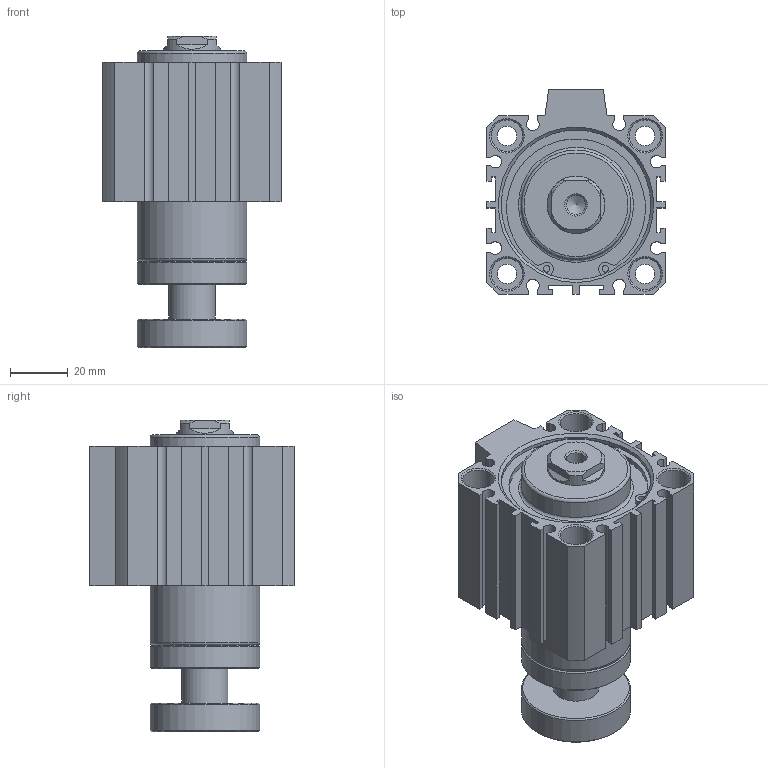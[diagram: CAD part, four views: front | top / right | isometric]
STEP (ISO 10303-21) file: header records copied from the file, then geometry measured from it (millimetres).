
FILE_DESCRIPTION((''),'2;1');
FILE_NAME('I:\3D電子目錄\氣缸\JDAR\JDAR\JDAR50\JDAR50x20.stp','2007-03-14T10:57:30',('662F206'),(''),'Autodesk Inventor 11','Autodesk Inventor 11','');
FILE_SCHEMA(('AUTOMOTIVE_DESIGN { 1 0 10303 214 1 1 1 1 }'));
Length unit declared in the file: millimetre
Products named in the file (3): JDAR50; R 形環 52
Assembly tree (3 placements, depth 2):
  JDAR50
    JDAR50
    R 形環 52  x2
Bounding box: 62 x 71 x 108.3 mm (x, y, z)
Volume: 210238.1 mm3; surface area: 46783.9 mm2
Topology: 3 solids, 3 shells, 193 faces, 472 edges, 309 vertices
Faces by surface type: plane 110, cylinder 54, cone 23, bspline 4, torus 2
Full cylindrical faces by diameter (mm): 2.3 x4, 2.7 x2, 6.8 x4, 11 x8, 16 x1, 20 x1, 38 x4, 52 x4, 55 x2
Entity records: 5195 total; most frequent: CARTESIAN_POINT 989, DIRECTION 870, ORIENTED_EDGE 764, EDGE_CURVE 382, AXIS2_PLACEMENT_3D 313, VERTEX_POINT 282, EDGE_LOOP 270, VECTOR 244
